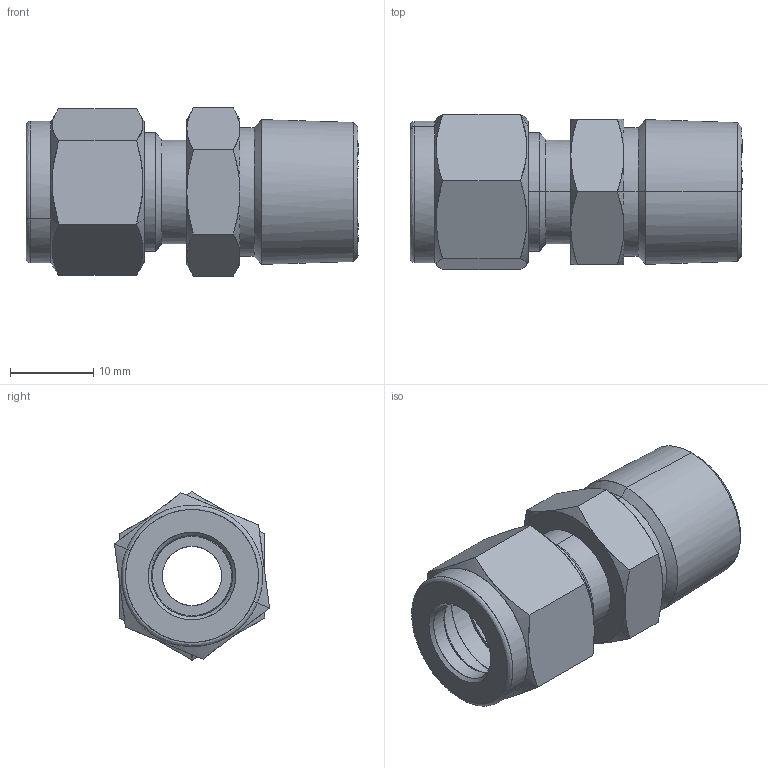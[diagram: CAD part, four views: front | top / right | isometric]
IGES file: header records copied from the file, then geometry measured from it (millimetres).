
Start section: Comment
Global section: file name: SMC6-6N.igs; native system:  By UGS Corp.; preprocessor: XPlus GENERIC/IGES 3.0; author: Author; organization: Title; date: 20100113.155022; units: millimetre
Bounding box: 39.91 x 18.64 x 20.21 mm (x, y, z)
Surface area: 4606.4 mm2 (no closed solid volume)
Topology: 0 solids, 0 shells, 87 faces, 364 edges, 364 vertices
Faces by surface type: bspline 87
